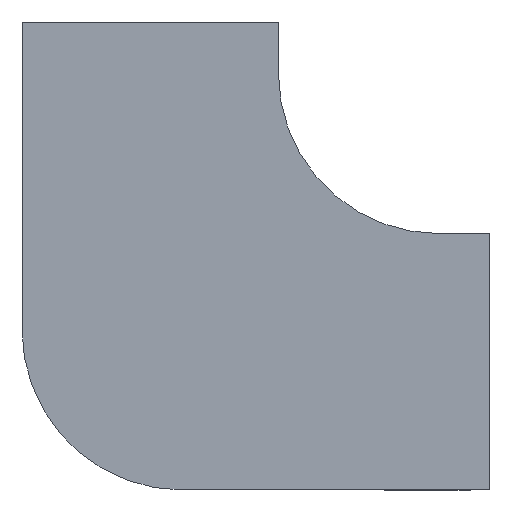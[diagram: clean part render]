
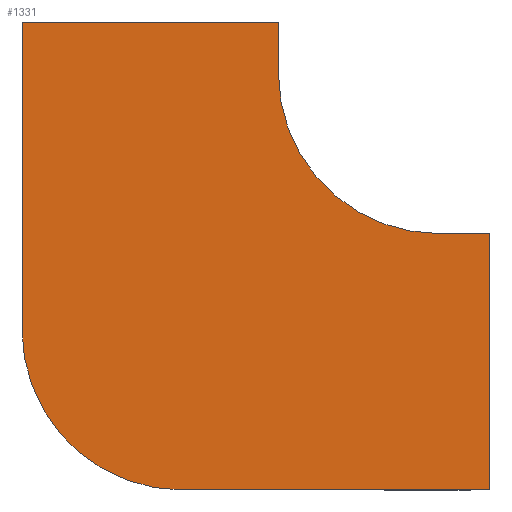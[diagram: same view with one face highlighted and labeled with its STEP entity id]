
A CAD part, front view. The second image highlights one B-rep face of the part: STEP entity #1331.
In plain terms, the highlighted planar face has unit normal (0, -1, 0).
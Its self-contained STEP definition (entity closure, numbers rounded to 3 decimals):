
#67 = VERTEX_POINT ( 'NONE', #357 ) ;
#69 = LINE ( 'NONE', #303, #1229 ) ;
#77 = LINE ( 'NONE', #1264, #689 ) ;
#133 = AXIS2_PLACEMENT_3D ( 'NONE', #490, #650, #1666 ) ;
#147 = LINE ( 'NONE', #948, #1626 ) ;
#155 = ORIENTED_EDGE ( 'NONE', *, *, #1103, .F. ) ;
#170 = CARTESIAN_POINT ( 'NONE',  ( 40., 0., -125. ) ) ;
#178 = LINE ( 'NONE', #696, #1175 ) ;
#210 = CARTESIAN_POINT ( 'NONE',  ( -125., 0., 40. ) ) ;
#241 = FACE_OUTER_BOUND ( 'NONE', #635, .T. ) ;
#303 = CARTESIAN_POINT ( 'NONE',  ( -125., 0., 40. ) ) ;
#341 = ORIENTED_EDGE ( 'NONE', *, *, #1326, .F. ) ;
#356 = CARTESIAN_POINT ( 'NONE',  ( 0., 0., -125. ) ) ;
#357 = CARTESIAN_POINT ( 'NONE',  ( -325., 0., 40. ) ) ;
#375 = CARTESIAN_POINT ( 'NONE',  ( -200., 0., -325. ) ) ;
#395 = CARTESIAN_POINT ( 'NONE',  ( 40., 0., -325. ) ) ;
#403 = DIRECTION ( 'NONE',  ( -1., 0., 0. ) ) ;
#404 = ORIENTED_EDGE ( 'NONE', *, *, #1188, .F. ) ;
#409 = ORIENTED_EDGE ( 'NONE', *, *, #546, .F. ) ;
#440 = ORIENTED_EDGE ( 'NONE', *, *, #632, .F. ) ;
#490 = CARTESIAN_POINT ( 'NONE',  ( 0., 0., 0. ) ) ;
#546 = EDGE_CURVE ( 'NONE', #1376, #1256, #1273, .T. ) ;
#554 = CIRCLE ( 'NONE', #1203, 125. ) ;
#618 = VERTEX_POINT ( 'NONE', #375 ) ;
#623 = DIRECTION ( 'NONE',  ( 0., 0., 1. ) ) ;
#632 = EDGE_CURVE ( 'NONE', #1256, #1574, #147, .T. ) ;
#635 = EDGE_LOOP ( 'NONE', ( #1094, #404, #1422, #341, #1129, #440, #409, #155 ) ) ;
#650 = DIRECTION ( 'NONE',  ( 0., -1., 0. ) ) ;
#667 = DIRECTION ( 'NONE',  ( 1., 0., 0. ) ) ;
#689 = VECTOR ( 'NONE', #1010, 1000. ) ;
#696 = CARTESIAN_POINT ( 'NONE',  ( -325., 0., -200. ) ) ;
#714 = AXIS2_PLACEMENT_3D ( 'NONE', #1291, #1030, #758 ) ;
#724 = CARTESIAN_POINT ( 'NONE',  ( -325., 0., -200. ) ) ;
#758 = DIRECTION ( 'NONE',  ( 0., 0., -1. ) ) ;
#832 = VERTEX_POINT ( 'NONE', #857 ) ;
#857 = CARTESIAN_POINT ( 'NONE',  ( 40., 0., -325. ) ) ;
#888 = CARTESIAN_POINT ( 'NONE',  ( -200., 0., -200. ) ) ;
#948 = CARTESIAN_POINT ( 'NONE',  ( 0., 0., -125. ) ) ;
#1010 = DIRECTION ( 'NONE',  ( 1., 0., 0. ) ) ;
#1014 = VECTOR ( 'NONE', #1480, 1000. ) ;
#1030 = DIRECTION ( 'NONE',  ( 0., -1., 0. ) ) ;
#1036 = CARTESIAN_POINT ( 'NONE',  ( -125., 0., 0. ) ) ;
#1094 = ORIENTED_EDGE ( 'NONE', *, *, #1238, .F. ) ;
#1103 = EDGE_CURVE ( 'NONE', #1315, #1376, #69, .T. ) ;
#1104 = EDGE_CURVE ( 'NONE', #1574, #832, #1354, .T. ) ;
#1129 = ORIENTED_EDGE ( 'NONE', *, *, #1104, .F. ) ;
#1175 = VECTOR ( 'NONE', #1212, 1000. ) ;
#1188 = EDGE_CURVE ( 'NONE', #1605, #67, #178, .T. ) ;
#1203 = AXIS2_PLACEMENT_3D ( 'NONE', #888, #1388, #623 ) ;
#1212 = DIRECTION ( 'NONE',  ( 0., 0., 1. ) ) ;
#1229 = VECTOR ( 'NONE', #1619, 1000. ) ;
#1238 = EDGE_CURVE ( 'NONE', #67, #1315, #77, .T. ) ;
#1254 = LINE ( 'NONE', #395, #1257 ) ;
#1256 = VERTEX_POINT ( 'NONE', #356 ) ;
#1257 = VECTOR ( 'NONE', #403, 1000. ) ;
#1264 = CARTESIAN_POINT ( 'NONE',  ( -325., 0., 40. ) ) ;
#1273 = CIRCLE ( 'NONE', #133, 125. ) ;
#1279 = EDGE_CURVE ( 'NONE', #618, #1605, #554, .T. ) ;
#1291 = CARTESIAN_POINT ( 'NONE',  ( 0., 0., 0. ) ) ;
#1315 = VERTEX_POINT ( 'NONE', #210 ) ;
#1325 = CARTESIAN_POINT ( 'NONE',  ( 40., 0., -125. ) ) ;
#1326 = EDGE_CURVE ( 'NONE', #832, #618, #1254, .T. ) ;
#1331 = ADVANCED_FACE ( 'NONE', ( #241 ), #1537, .T. ) ;
#1354 = LINE ( 'NONE', #170, #1014 ) ;
#1376 = VERTEX_POINT ( 'NONE', #1036 ) ;
#1388 = DIRECTION ( 'NONE',  ( 0., 1., 0. ) ) ;
#1422 = ORIENTED_EDGE ( 'NONE', *, *, #1279, .F. ) ;
#1480 = DIRECTION ( 'NONE',  ( 0., 0., -1. ) ) ;
#1537 = PLANE ( 'NONE',  #714 ) ;
#1574 = VERTEX_POINT ( 'NONE', #1325 ) ;
#1605 = VERTEX_POINT ( 'NONE', #724 ) ;
#1619 = DIRECTION ( 'NONE',  ( 0., 0., -1. ) ) ;
#1626 = VECTOR ( 'NONE', #667, 1000. ) ;
#1666 = DIRECTION ( 'NONE',  ( 0., 0., -1. ) ) ;
